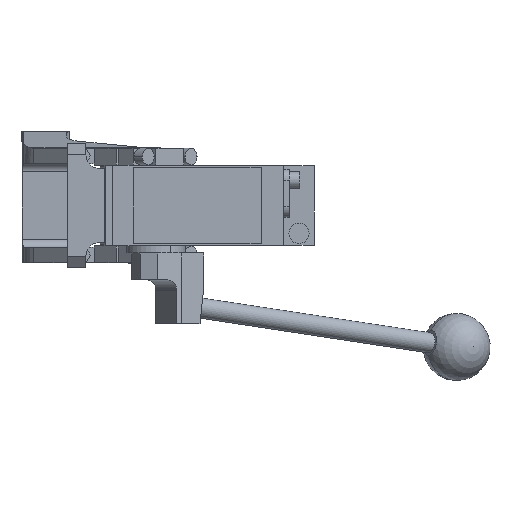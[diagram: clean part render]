
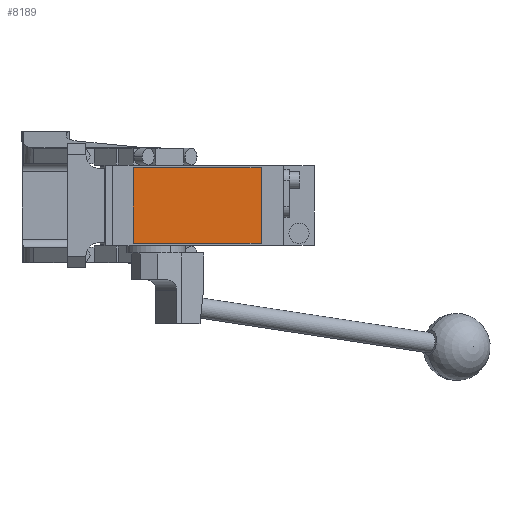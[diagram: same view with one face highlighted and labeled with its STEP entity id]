
A CAD part, front view. The second image highlights one B-rep face of the part: STEP entity #8189.
In plain terms, the highlighted planar face has unit normal (0, -1, 0).
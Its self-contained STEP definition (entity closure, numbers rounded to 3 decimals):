
#530 = CARTESIAN_POINT ( 'NONE',  ( 69., -280.5, 22.5 ) ) ;
#862 = FACE_OUTER_BOUND ( 'NONE', #8591, .T. ) ;
#1486 = CARTESIAN_POINT ( 'NONE',  ( -7., -280.5, 22.5 ) ) ;
#1494 = CARTESIAN_POINT ( 'NONE',  ( 69., -280.5, 22.5 ) ) ;
#2167 = DIRECTION ( 'NONE',  ( 0., -1., 0. ) ) ;
#2577 = EDGE_CURVE ( 'NONE', #12153, #9117, #9389, .T. ) ;
#2918 = LINE ( 'NONE', #530, #12862 ) ;
#4987 = CARTESIAN_POINT ( 'NONE',  ( -7., -280.5, 22.5 ) ) ;
#6585 = VECTOR ( 'NONE', #12730, 1000. ) ;
#6807 = VERTEX_POINT ( 'NONE', #1494 ) ;
#6993 = PLANE ( 'NONE',  #10656 ) ;
#7595 = VECTOR ( 'NONE', #14344, 1000. ) ;
#8073 = EDGE_CURVE ( 'NONE', #9117, #6807, #2918, .T. ) ;
#8189 = ADVANCED_FACE ( 'NONE', ( #862 ), #6993, .T. ) ;
#8591 = EDGE_LOOP ( 'NONE', ( #9876, #13798, #12632, #12886 ) ) ;
#9070 = VECTOR ( 'NONE', #14961, 1000. ) ;
#9117 = VERTEX_POINT ( 'NONE', #12202 ) ;
#9307 = CARTESIAN_POINT ( 'NONE',  ( -7., -280.5, -22.5 ) ) ;
#9389 = LINE ( 'NONE', #9307, #7595 ) ;
#9876 = ORIENTED_EDGE ( 'NONE', *, *, #15847, .T. ) ;
#9921 = LINE ( 'NONE', #4987, #9070 ) ;
#10037 = EDGE_CURVE ( 'NONE', #6807, #11252, #9921, .T. ) ;
#10459 = DIRECTION ( 'NONE',  ( 0., 0., 1. ) ) ;
#10656 = AXIS2_PLACEMENT_3D ( 'NONE', #13076, #2167, #15412 ) ;
#11252 = VERTEX_POINT ( 'NONE', #12125 ) ;
#12125 = CARTESIAN_POINT ( 'NONE',  ( -7., -280.5, 22.5 ) ) ;
#12153 = VERTEX_POINT ( 'NONE', #15976 ) ;
#12202 = CARTESIAN_POINT ( 'NONE',  ( 69., -280.5, -22.5 ) ) ;
#12632 = ORIENTED_EDGE ( 'NONE', *, *, #8073, .T. ) ;
#12730 = DIRECTION ( 'NONE',  ( 0., 0., -1. ) ) ;
#12862 = VECTOR ( 'NONE', #10459, 1000. ) ;
#12886 = ORIENTED_EDGE ( 'NONE', *, *, #10037, .T. ) ;
#13076 = CARTESIAN_POINT ( 'NONE',  ( 0., -280.5, 0. ) ) ;
#13798 = ORIENTED_EDGE ( 'NONE', *, *, #2577, .T. ) ;
#13854 = LINE ( 'NONE', #1486, #6585 ) ;
#14344 = DIRECTION ( 'NONE',  ( 1., 0., 0. ) ) ;
#14961 = DIRECTION ( 'NONE',  ( -1., 0., 0. ) ) ;
#15412 = DIRECTION ( 'NONE',  ( 0., 0., -1. ) ) ;
#15847 = EDGE_CURVE ( 'NONE', #11252, #12153, #13854, .T. ) ;
#15976 = CARTESIAN_POINT ( 'NONE',  ( -7., -280.5, -22.5 ) ) ;
